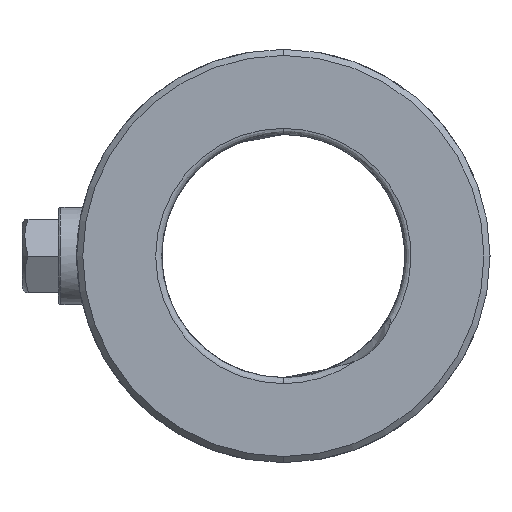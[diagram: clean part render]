
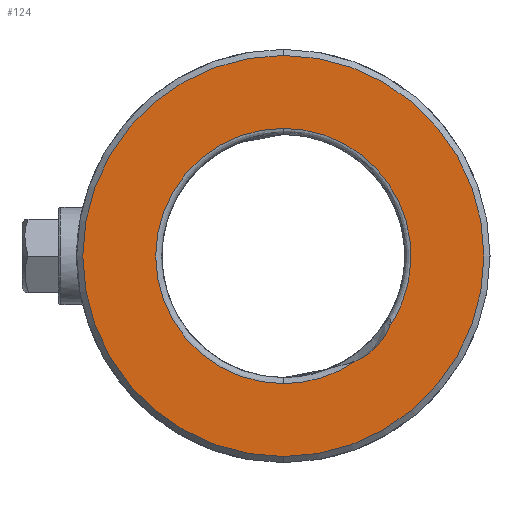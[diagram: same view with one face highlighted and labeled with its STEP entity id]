
A CAD part, left-side view. The second image highlights one B-rep face of the part: STEP entity #124.
In plain terms, the highlighted free-form (B-spline) face has degree [1, 1] with [2, 2] control points.
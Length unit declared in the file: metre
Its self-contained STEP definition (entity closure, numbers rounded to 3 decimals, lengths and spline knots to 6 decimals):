
#124 = ADVANCED_FACE( '', ( #247, #248 ), #249, .T. );
#247 = FACE_BOUND( '', #1220, .T. );
#248 = FACE_OUTER_BOUND( '', #1221, .T. );
#249 = B_SPLINE_SURFACE_WITH_KNOTS( '', 1, 1, ( ( #1222, #1223 ), ( #1224, #1225 ) ), .UNSPECIFIED., .F., .F., .F., ( 2, 2 ), ( 2, 2 ), ( 0., 1. ), ( 0., 1. ), .UNSPECIFIED. );
#1220 = EDGE_LOOP( '', ( #1748, #1749, #1750, #1751 ) );
#1221 = EDGE_LOOP( '', ( #1752, #1753 ) );
#1222 = CARTESIAN_POINT( '', ( 0.037586, -0.016698, -0.016698 ) );
#1223 = CARTESIAN_POINT( '', ( 0.037586, 0.016698, -0.016698 ) );
#1224 = CARTESIAN_POINT( '', ( 0.037586, -0.016698, 0.016698 ) );
#1225 = CARTESIAN_POINT( '', ( 0.037586, 0.016698, 0.016698 ) );
#1748 = ORIENTED_EDGE( '', *, *, #2015, .T. );
#1749 = ORIENTED_EDGE( '', *, *, #2013, .T. );
#1750 = ORIENTED_EDGE( '', *, *, #1960, .T. );
#1751 = ORIENTED_EDGE( '', *, *, #1976, .T. );
#1752 = ORIENTED_EDGE( '', *, *, #2016, .T. );
#1753 = ORIENTED_EDGE( '', *, *, #2008, .T. );
#1960 = EDGE_CURVE( '', #2167, #2165, #2168, .T. );
#1976 = EDGE_CURVE( '', #2165, #2194, #2196, .F. );
#2008 = EDGE_CURVE( '', #2240, #2241, #2242, .F. );
#2013 = EDGE_CURVE( '', #2247, #2167, #2248, .T. );
#2015 = EDGE_CURVE( '', #2194, #2247, #2250, .F. );
#2016 = EDGE_CURVE( '', #2241, #2240, #2251, .F. );
#2165 = VERTEX_POINT( '', #2608 );
#2167 = VERTEX_POINT( '', #2619 );
#2168 = B_SPLINE_CURVE_WITH_KNOTS( '', 3, ( #2620, #2621, #2622, #2623, #2624, #2625, #2626, #2627, #2628, #2629 ), .UNSPECIFIED., .F., .F., ( 4, 2, 2, 2, 4 ), ( 0., 0.000971, 0.001943, 0.002914, 0.003885 ), .UNSPECIFIED. );
#2194 = VERTEX_POINT( '', #2866 );
#2196 = CIRCLE( '', #2878, 0.0105 );
#2240 = VERTEX_POINT( '', #3040 );
#2241 = VERTEX_POINT( '', #3041 );
#2242 = CIRCLE( '', #3042, 0.0165 );
#2247 = VERTEX_POINT( '', #3069 );
#2248 = B_SPLINE_CURVE_WITH_KNOTS( '', 3, ( #3070, #3071, #3072, #3073, #3074, #3075, #3076, #3077, #3078, #3079, #3080, #3081, #3082, #3083, #3084, #3085, #3086, #3087, #3088, #3089, #3090, #3091, #3092, #3093, #3094, #3095, #3096, #3097, #3098 ), .UNSPECIFIED., .F., .F., ( 4, 1, 1, 1, 1, 1, 1, 1, 1, 1, 1, 1, 1, 1, 1, 1, 1, 1, 1, 1, 1, 1, 1, 1, 1, 1, 4 ), ( 0., 0.012516, 0.025017, 0.037514, 0.050016, 0.062532, 0.093792, 0.125053, 0.156314, 0.187575, 0.25006, 0.312545, 0.375031, 0.437516, 0.500002, 0.562487, 0.624973, 0.687458, 0.749943, 0.812429, 0.84369, 0.87495, 0.906211, 0.937472, 0.958322, 0.97915, 1. ), .UNSPECIFIED. );
#2250 = CIRCLE( '', #3110, 0.0105 );
#2251 = CIRCLE( '', #3111, 0.0165 );
#2608 = CARTESIAN_POINT( '', ( 0.037586, -0.00598, -0.008631 ) );
#2619 = CARTESIAN_POINT( '', ( 0.037586, -0.008661, -0.005935 ) );
#2620 = CARTESIAN_POINT( '', ( 0.037586, -0.008661, -0.005935 ) );
#2621 = CARTESIAN_POINT( '', ( 0.037586, -0.008544, -0.006242 ) );
#2622 = CARTESIAN_POINT( '', ( 0.037586, -0.008392, -0.006528 ) );
#2623 = CARTESIAN_POINT( '', ( 0.037586, -0.008032, -0.007068 ) );
#2624 = CARTESIAN_POINT( '', ( 0.037586, -0.007823, -0.007323 ) );
#2625 = CARTESIAN_POINT( '', ( 0.037586, -0.007364, -0.007782 ) );
#2626 = CARTESIAN_POINT( '', ( 0.037586, -0.007115, -0.007989 ) );
#2627 = CARTESIAN_POINT( '', ( 0.037586, -0.006573, -0.008354 ) );
#2628 = CARTESIAN_POINT( '', ( 0.037586, -0.006284, -0.00851 ) );
#2629 = CARTESIAN_POINT( '', ( 0.037586, -0.00598, -0.008631 ) );
#2866 = CARTESIAN_POINT( '', ( 0.037586, 0., -0.0105 ) );
#2878 = AXIS2_PLACEMENT_3D( '', #3312, #3313, #3314 );
#3040 = CARTESIAN_POINT( '', ( 0.037586, 0., -0.0165 ) );
#3041 = CARTESIAN_POINT( '', ( 0.037586, 0., 0.0165 ) );
#3042 = AXIS2_PLACEMENT_3D( '', #3366, #3367, #3368 );
#3069 = CARTESIAN_POINT( '', ( 0.037586, 0., 0.0105 ) );
#3070 = CARTESIAN_POINT( '', ( 0.037586, 0., 0.0105 ) );
#3071 = CARTESIAN_POINT( '', ( 0.037586, -0.000095, 0.010499 ) );
#3072 = CARTESIAN_POINT( '', ( 0.037586, -0.000285, 0.010498 ) );
#3073 = CARTESIAN_POINT( '', ( 0.037586, -0.00057, 0.010486 ) );
#3074 = CARTESIAN_POINT( '', ( 0.037586, -0.000854, 0.010467 ) );
#3075 = CARTESIAN_POINT( '', ( 0.037586, -0.001138, 0.010439 ) );
#3076 = CARTESIAN_POINT( '', ( 0.037586, -0.001562, 0.010387 ) );
#3077 = CARTESIAN_POINT( '', ( 0.037586, -0.002125, 0.010291 ) );
#3078 = CARTESIAN_POINT( '', ( 0.037586, -0.002817, 0.010123 ) );
#3079 = CARTESIAN_POINT( '', ( 0.037586, -0.003497, 0.009909 ) );
#3080 = CARTESIAN_POINT( '', ( 0.037586, -0.004382, 0.009562 ) );
#3081 = CARTESIAN_POINT( '', ( 0.037586, -0.005441, 0.009018 ) );
#3082 = CARTESIAN_POINT( '', ( 0.037586, -0.006611, 0.008199 ) );
#3083 = CARTESIAN_POINT( '', ( 0.037586, -0.00766, 0.007229 ) );
#3084 = CARTESIAN_POINT( '', ( 0.037586, -0.008567, 0.006126 ) );
#3085 = CARTESIAN_POINT( '', ( 0.037586, -0.009318, 0.00491 ) );
#3086 = CARTESIAN_POINT( '', ( 0.037586, -0.009896, 0.003604 ) );
#3087 = CARTESIAN_POINT( '', ( 0.037586, -0.010293, 0.002232 ) );
#3088 = CARTESIAN_POINT( '', ( 0.037586, -0.0105, 0.000819 ) );
#3089 = CARTESIAN_POINT( '', ( 0.037586, -0.010515, -0.000609 ) );
#3090 = CARTESIAN_POINT( '', ( 0.037586, -0.010365, -0.001791 ) );
#3091 = CARTESIAN_POINT( '', ( 0.037586, -0.010151, -0.002716 ) );
#3092 = CARTESIAN_POINT( '', ( 0.037586, -0.009943, -0.003398 ) );
#3093 = CARTESIAN_POINT( '', ( 0.037586, -0.00969, -0.004065 ) );
#3094 = CARTESIAN_POINT( '', ( 0.037586, -0.009425, -0.004641 ) );
#3095 = CARTESIAN_POINT( '', ( 0.037586, -0.009165, -0.00513 ) );
#3096 = CARTESIAN_POINT( '', ( 0.037586, -0.008925, -0.00554 ) );
#3097 = CARTESIAN_POINT( '', ( 0.037586, -0.008749, -0.005804 ) );
#3098 = CARTESIAN_POINT( '', ( 0.037586, -0.008661, -0.005935 ) );
#3110 = AXIS2_PLACEMENT_3D( '', #3371, #3372, #3373 );
#3111 = AXIS2_PLACEMENT_3D( '', #3374, #3375, #3376 );
#3312 = CARTESIAN_POINT( '', ( 0.037586, 0., 0. ) );
#3313 = DIRECTION( '', ( -1., 0., 0. ) );
#3314 = DIRECTION( '', ( 0., 0., 1. ) );
#3366 = CARTESIAN_POINT( '', ( 0.037586, 0., 0. ) );
#3367 = DIRECTION( '', ( 1., 0., 0. ) );
#3368 = DIRECTION( '', ( 0., 0., -1. ) );
#3371 = CARTESIAN_POINT( '', ( 0.037586, 0., 0. ) );
#3372 = DIRECTION( '', ( -1., 0., 0. ) );
#3373 = DIRECTION( '', ( 0., -1., 0. ) );
#3374 = CARTESIAN_POINT( '', ( 0.037586, 0., 0. ) );
#3375 = DIRECTION( '', ( 1., 0., 0. ) );
#3376 = DIRECTION( '', ( 0., 0., -1. ) );
